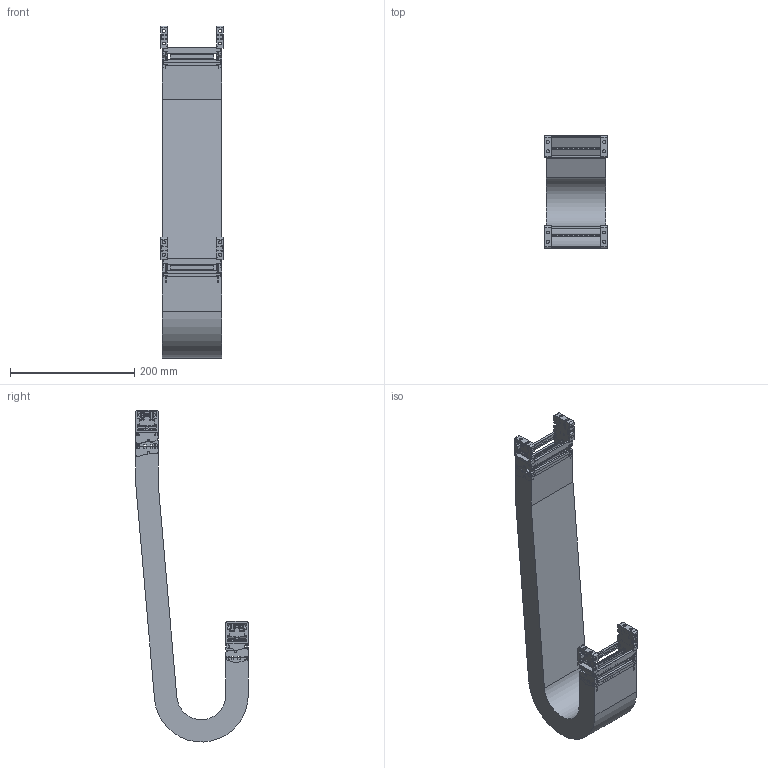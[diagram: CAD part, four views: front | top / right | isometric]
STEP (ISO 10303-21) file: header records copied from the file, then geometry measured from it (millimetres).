
FILE_DESCRIPTION((''),'2;1');
FILE_NAME('KST-25080-055_ASM','2017-12-05T',('KUNI004K'),(''),'PRO/ENGINEER BY PARAMETRIC TECHNOLOGY CORPORATION, 2015200','PRO/ENGINEER BY PARAMETRIC TECHNOLOGY CORPORATION, 2015200','');
FILE_SCHEMA(('AUTOMOTIVE_DESIGN { 1 0 10303 214 1 1 1 1 }'));
Length unit declared in the file: millimetre
Products named in the file (13): 25FBR; 25FBL; 25080C; KST25FBR_W080_ASM; 25055R; 25055L; 25080H; KST25080-055_1_ASM; KST25080_R55_BODY; 25MBR; 25MBL; KST25MBR_W080_ASM; KST-25080-055_ASM
Assembly tree (19 placements, depth 3):
  KST-25080-055_ASM
    KST25FBR_W080_ASM
      25FBR
      25FBL
      25080C  x2
    KST25080-055_1_ASM  x2
      25055R
      25055L
      25080C
      25080H
    KST25080_R55_BODY
    KST25MBR_W080_ASM
      25MBR
      25MBL
      25080C  x2
Bounding box: 100 x 181 x 534.23 mm (x, y, z)
Volume: 984654.5 mm3; surface area: 485696.6 mm2
Topology: 21 solids, 21 shells, 2660 faces, 7418 edges, 4816 vertices
Faces by surface type: plane 1394, cylinder 962, bspline 208, sphere 64, torus 32
Entity records: 69854 total; most frequent: CARTESIAN_POINT 14452, ORIENTED_EDGE 7540, DIRECTION 6640, PRESENTATION_STYLE_ASSIGNMENT 5094, STYLED_ITEM 5094, CURVE_STYLE 3770, EDGE_CURVE 3770, VECTOR 2510
